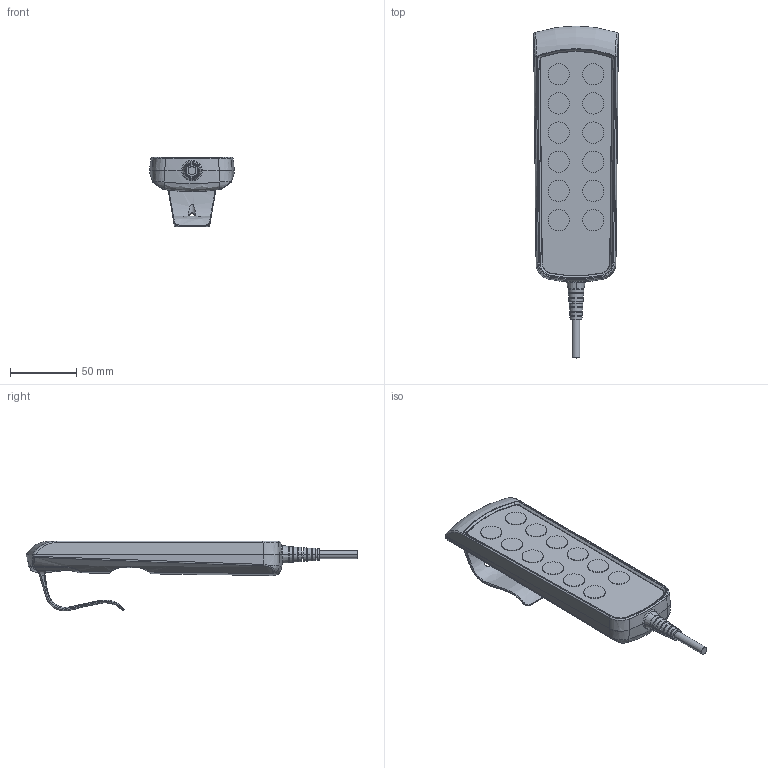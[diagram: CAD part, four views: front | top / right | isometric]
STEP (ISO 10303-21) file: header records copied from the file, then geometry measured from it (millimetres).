
FILE_DESCRIPTION (( 'STEP AP203' ), '1' );
FILE_NAME ('3D-TH12-WithoutSafetyKey.STEP', '2011-10-27T02:23:42', ( 'Jeremy' ), ( '' ), 'SwSTEP 2.0', 'SolidWorks 2010', '' );
FILE_SCHEMA (( 'CONFIG_CONTROL_DESIGN' ));
Length unit declared in the file: millimetre
Products named in the file (5): TH12_下蓋; 40510-027-SR-A; TH12-掛勾; 上蓋; 3D-TH12-WithoutSafetyKey
Assembly tree (4 placements, depth 2):
  3D-TH12-WithoutSafetyKey
    上蓋
    40510-027-SR-A
    TH12-掛勾
    TH12_下蓋
Bounding box: 63.93 x 250.28 x 52.33 mm (x, y, z)
Volume: 249009.7 mm3; surface area: 67481.4 mm2
Topology: 4 solids, 4 shells, 336 faces, 807 edges, 495 vertices
Faces by surface type: bspline 147, plane 93, cylinder 61, cone 25, torus 8, sphere 2
Entity records: 29077 total; most frequent: CARTESIAN_POINT 21681, ORIENTED_EDGE 1606, DIRECTION 1130, EDGE_CURVE 803, VERTEX_POINT 495, AXIS2_PLACEMENT_3D 468, EDGE_LOOP 358, FACE_OUTER_BOUND 336
